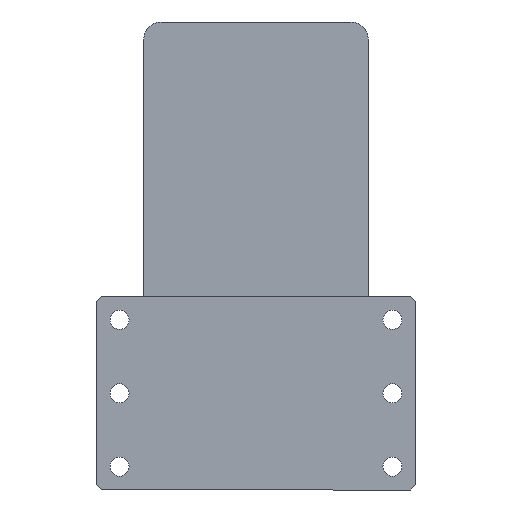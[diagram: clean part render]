
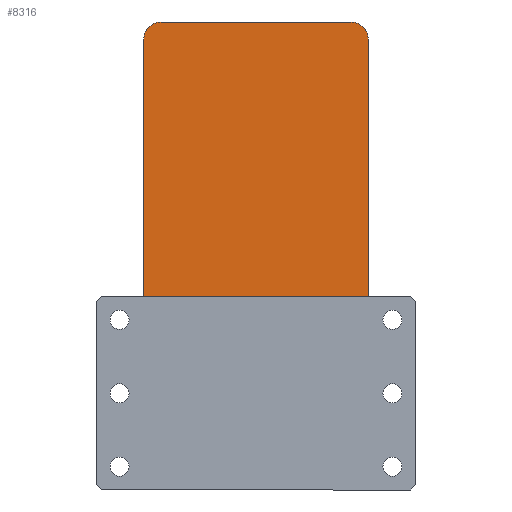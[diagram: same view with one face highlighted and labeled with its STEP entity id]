
A CAD part, left-side view. The second image highlights one B-rep face of the part: STEP entity #8316.
In plain terms, the highlighted planar face has unit normal (-1, 0, 0) as drawn and (0, 0, 1) by its records, which use the part's own axes.
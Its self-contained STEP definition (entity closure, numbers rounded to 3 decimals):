
#209 = ORIENTED_EDGE ( 'NONE', *, *, #364, .T. ) ;
#221 = ORIENTED_EDGE ( 'NONE', *, *, #406, .T. ) ;
#263 = ORIENTED_EDGE ( 'NONE', *, *, #7869, .T. ) ;
#309 = ORIENTED_EDGE ( 'NONE', *, *, #409, .T. ) ;
#356 = ORIENTED_EDGE ( 'NONE', *, *, #6963, .T. ) ;
#364 = EDGE_CURVE ( 'NONE', #10459, #1896, #7556, .T. ) ;
#391 = ORIENTED_EDGE ( 'NONE', *, *, #427, .T. ) ;
#406 = EDGE_CURVE ( 'NONE', #1896, #7804, #7502, .T. ) ;
#409 = EDGE_CURVE ( 'NONE', #2920, #5328, #7424, .T. ) ;
#417 = ORIENTED_EDGE ( 'NONE', *, *, #6423, .T. ) ;
#427 = EDGE_CURVE ( 'NONE', #6134, #10626, #7412, .T. ) ;
#447 = ORIENTED_EDGE ( 'NONE', *, *, #460, .T. ) ;
#460 = EDGE_CURVE ( 'NONE', #2007, #10459, #7329, .T. ) ;
#747 = FACE_OUTER_BOUND ( 'NONE', #10984, .T. ) ;
#1635 = CARTESIAN_POINT ( 'NONE',  ( 65., 125., 105. ) ) ;
#1896 = VERTEX_POINT ( 'NONE', #6198 ) ;
#1976 = VECTOR ( 'NONE', #6280, 1000. ) ;
#2007 = VERTEX_POINT ( 'NONE', #7170 ) ;
#2045 = LINE ( 'NONE', #6361, #1976 ) ;
#2047 = CARTESIAN_POINT ( 'NONE',  ( -65., 135., 105. ) ) ;
#2079 = CARTESIAN_POINT ( 'NONE',  ( -55., -135., 105. ) ) ;
#2148 = DIRECTION ( 'NONE',  ( -1., 0., 0. ) ) ;
#2316 = AXIS2_PLACEMENT_3D ( 'NONE', #6663, #6487, #6469 ) ;
#2920 = VERTEX_POINT ( 'NONE', #1635 ) ;
#3009 = VECTOR ( 'NONE', #2148, 1000. ) ;
#3023 = LINE ( 'NONE', #2047, #3009 ) ;
#3917 = VECTOR ( 'NONE', #5437, 1000. ) ;
#3999 = LINE ( 'NONE', #5392, #3917 ) ;
#5328 = VERTEX_POINT ( 'NONE', #8467 ) ;
#5392 = CARTESIAN_POINT ( 'NONE',  ( -65., 135., 105. ) ) ;
#5437 = DIRECTION ( 'NONE',  ( 0., -1., 0. ) ) ;
#6134 = VERTEX_POINT ( 'NONE', #7301 ) ;
#6198 = CARTESIAN_POINT ( 'NONE',  ( 55., -135., 105. ) ) ;
#6280 = DIRECTION ( 'NONE',  ( 0., 1., 0. ) ) ;
#6361 = CARTESIAN_POINT ( 'NONE',  ( 65., 135., 105. ) ) ;
#6423 = EDGE_CURVE ( 'NONE', #10626, #2007, #3999, .T. ) ;
#6469 = DIRECTION ( 'NONE',  ( 1., 0., 0. ) ) ;
#6487 = DIRECTION ( 'NONE',  ( 0., 0., 1. ) ) ;
#6663 = CARTESIAN_POINT ( 'NONE',  ( 0., 0., 105. ) ) ;
#6963 = EDGE_CURVE ( 'NONE', #5328, #6134, #3023, .T. ) ;
#7056 = PLANE ( 'NONE',  #2316 ) ;
#7170 = CARTESIAN_POINT ( 'NONE',  ( -65., -125., 105. ) ) ;
#7301 = CARTESIAN_POINT ( 'NONE',  ( -55., 135., 105. ) ) ;
#7304 = AXIS2_PLACEMENT_3D ( 'NONE', #10225, #10243, #10255 ) ;
#7329 = CIRCLE ( 'NONE', #7304, 10. ) ;
#7350 = AXIS2_PLACEMENT_3D ( 'NONE', #10067, #10069, #10090 ) ;
#7385 = AXIS2_PLACEMENT_3D ( 'NONE', #10027, #10039, #10043 ) ;
#7406 = AXIS2_PLACEMENT_3D ( 'NONE', #10145, #9998, #10008 ) ;
#7412 = CIRCLE ( 'NONE', #7350, 10. ) ;
#7424 = CIRCLE ( 'NONE', #7385, 10. ) ;
#7491 = VECTOR ( 'NONE', #9819, 1000. ) ;
#7502 = CIRCLE ( 'NONE', #7406, 10. ) ;
#7556 = LINE ( 'NONE', #9841, #7491 ) ;
#7804 = VERTEX_POINT ( 'NONE', #8444 ) ;
#7869 = EDGE_CURVE ( 'NONE', #7804, #2920, #2045, .T. ) ;
#8234 = CARTESIAN_POINT ( 'NONE',  ( -65., 125., 105. ) ) ;
#8316 = ADVANCED_FACE ( 'NONE', ( #747 ), #7056, .T. ) ;
#8444 = CARTESIAN_POINT ( 'NONE',  ( 65., -125., 105. ) ) ;
#8467 = CARTESIAN_POINT ( 'NONE',  ( 55., 135., 105. ) ) ;
#9819 = DIRECTION ( 'NONE',  ( 1., 0., 0. ) ) ;
#9841 = CARTESIAN_POINT ( 'NONE',  ( -65., -135., 105. ) ) ;
#9998 = DIRECTION ( 'NONE',  ( 0., 0., 1. ) ) ;
#10008 = DIRECTION ( 'NONE',  ( 1., 0., 0. ) ) ;
#10027 = CARTESIAN_POINT ( 'NONE',  ( 55., 125., 105. ) ) ;
#10039 = DIRECTION ( 'NONE',  ( 0., 0., 1. ) ) ;
#10043 = DIRECTION ( 'NONE',  ( 1., 0., 0. ) ) ;
#10067 = CARTESIAN_POINT ( 'NONE',  ( -55., 125., 105. ) ) ;
#10069 = DIRECTION ( 'NONE',  ( 0., 0., 1. ) ) ;
#10090 = DIRECTION ( 'NONE',  ( 1., 0., 0. ) ) ;
#10145 = CARTESIAN_POINT ( 'NONE',  ( 55., -125., 105. ) ) ;
#10225 = CARTESIAN_POINT ( 'NONE',  ( -55., -125., 105. ) ) ;
#10243 = DIRECTION ( 'NONE',  ( 0., 0., 1. ) ) ;
#10255 = DIRECTION ( 'NONE',  ( 1., 0., 0. ) ) ;
#10459 = VERTEX_POINT ( 'NONE', #2079 ) ;
#10626 = VERTEX_POINT ( 'NONE', #8234 ) ;
#10984 = EDGE_LOOP ( 'NONE', ( #209, #221, #263, #309, #356, #391, #417, #447 ) ) ;
